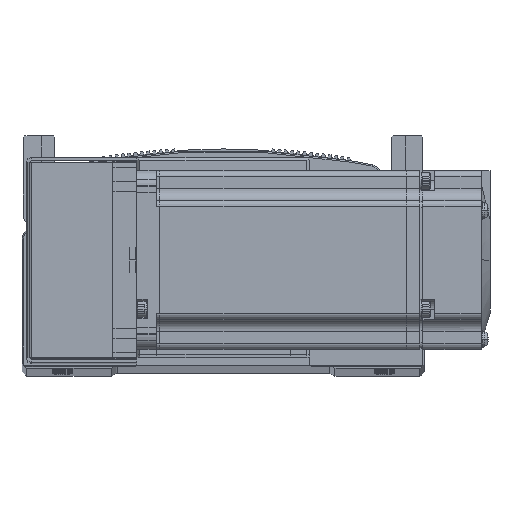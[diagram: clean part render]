
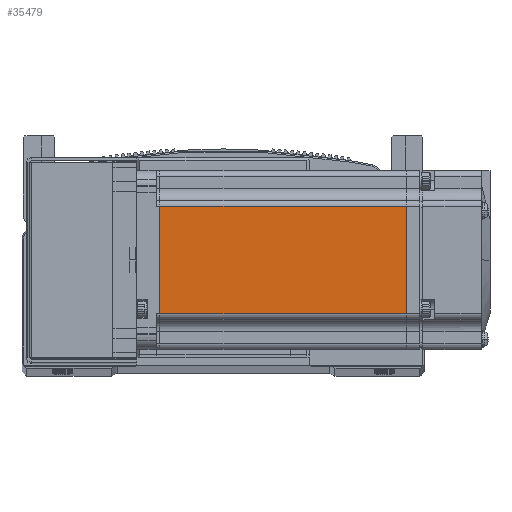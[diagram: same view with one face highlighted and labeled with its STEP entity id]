
A CAD part, top view. The second image highlights one B-rep face of the part: STEP entity #35479.
In plain terms, the highlighted planar face has unit normal (0, 0, 1) as drawn and (0, 0, -1) by its records, which use the part's own axes.
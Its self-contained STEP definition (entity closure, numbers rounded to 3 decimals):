
#6286 = AXIS2_PLACEMENT_3D ( 'NONE', #47772, #47784, #47788 ) ;
#7031 = LINE ( 'NONE', #34819, #7036 ) ;
#7036 = VECTOR ( 'NONE', #34817, 1000. ) ;
#8387 = VECTOR ( 'NONE', #34741, 1000. ) ;
#19277 = FACE_OUTER_BOUND ( 'NONE', #63546, .T. ) ;
#30878 = LINE ( 'NONE', #34684, #30935 ) ;
#30935 = VECTOR ( 'NONE', #34685, 1000. ) ;
#30980 = LINE ( 'NONE', #36495, #30981 ) ;
#30981 = VECTOR ( 'NONE', #37041, 1000. ) ;
#31933 = LINE ( 'NONE', #34706, #8387 ) ;
#34684 = CARTESIAN_POINT ( 'NONE',  ( -6.5, -18., -30. ) ) ;
#34685 = DIRECTION ( 'NONE',  ( -1., 0., 0. ) ) ;
#34706 = CARTESIAN_POINT ( 'NONE',  ( -90.45, 25., -30. ) ) ;
#34741 = DIRECTION ( 'NONE',  ( 0., 1., 0. ) ) ;
#34817 = DIRECTION ( 'NONE',  ( 0., -1., 0. ) ) ;
#34819 = CARTESIAN_POINT ( 'NONE',  ( -7.75, 25., -30. ) ) ;
#35479 = ADVANCED_FACE ( 'NONE', ( #19277 ), #47759, .T. ) ;
#36495 = CARTESIAN_POINT ( 'NONE',  ( -6.5, 18., -30. ) ) ;
#37041 = DIRECTION ( 'NONE',  ( 1., 0., 0. ) ) ;
#43327 = VERTEX_POINT ( 'NONE', #45184 ) ;
#43383 = VERTEX_POINT ( 'NONE', #45270 ) ;
#43387 = VERTEX_POINT ( 'NONE', #45265 ) ;
#43400 = VERTEX_POINT ( 'NONE', #45264 ) ;
#45184 = CARTESIAN_POINT ( 'NONE',  ( -7.75, -18., -30. ) ) ;
#45264 = CARTESIAN_POINT ( 'NONE',  ( -7.75, 18., -30. ) ) ;
#45265 = CARTESIAN_POINT ( 'NONE',  ( -90.45, -18., -30. ) ) ;
#45270 = CARTESIAN_POINT ( 'NONE',  ( -90.45, 18., -30. ) ) ;
#47759 = PLANE ( 'NONE',  #6286 ) ;
#47772 = CARTESIAN_POINT ( 'NONE',  ( -6.5, 25., -30. ) ) ;
#47784 = DIRECTION ( 'NONE',  ( 0., 0., -1. ) ) ;
#47788 = DIRECTION ( 'NONE',  ( -1., 0., 0. ) ) ;
#56454 = ORIENTED_EDGE ( 'NONE', *, *, #72084, .T. ) ;
#56479 = ORIENTED_EDGE ( 'NONE', *, *, #72111, .T. ) ;
#56493 = ORIENTED_EDGE ( 'NONE', *, *, #72075, .T. ) ;
#56514 = ORIENTED_EDGE ( 'NONE', *, *, #72040, .T. ) ;
#63546 = EDGE_LOOP ( 'NONE', ( #56479, #56493, #56454, #56514 ) ) ;
#72040 = EDGE_CURVE ( 'NONE', #43383, #43400, #30980, .T. ) ;
#72075 = EDGE_CURVE ( 'NONE', #43327, #43387, #30878, .T. ) ;
#72084 = EDGE_CURVE ( 'NONE', #43387, #43383, #31933, .T. ) ;
#72111 = EDGE_CURVE ( 'NONE', #43400, #43327, #7031, .T. ) ;
